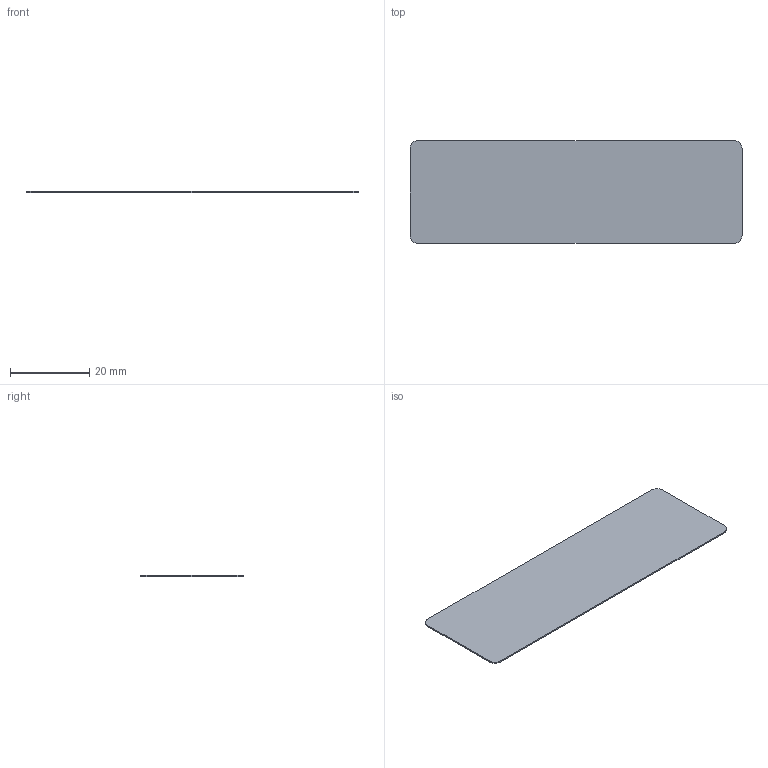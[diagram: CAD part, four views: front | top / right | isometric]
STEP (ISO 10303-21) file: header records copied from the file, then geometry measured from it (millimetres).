
FILE_DESCRIPTION(('Open CASCADE Model'),'2;1');
FILE_NAME('Open CASCADE Shape Model','2026-11-07T14:43:39',('Author'),( 'Open CASCADE'),'Open CASCADE STEP processor 7.9','Open CASCADE 7.9' ,'Unknown');
FILE_SCHEMA(('AUTOMOTIVE_DESIGN { 1 0 10303 214 1 1 1 1 }'));
Length unit declared in the file: millimetre
Products named in the file (1): Open CASCADE STEP translator 7.9 21
Bounding box: 84 x 26 x 0.35 mm (x, y, z)
Volume: 763.2 mm3; surface area: 4436.9 mm2
Topology: 1 solids, 1 shells, 10 faces, 24 edges, 16 vertices
Faces by surface type: plane 6, cylinder 4
Entity records: 630 total; most frequent: CARTESIAN_POINT 123, DIRECTION 98, LINE 56, VECTOR 56, ORIENTED_EDGE 48, PCURVE 48, DEFINITIONAL_REPRESENTATION 48, EDGE_CURVE 24
